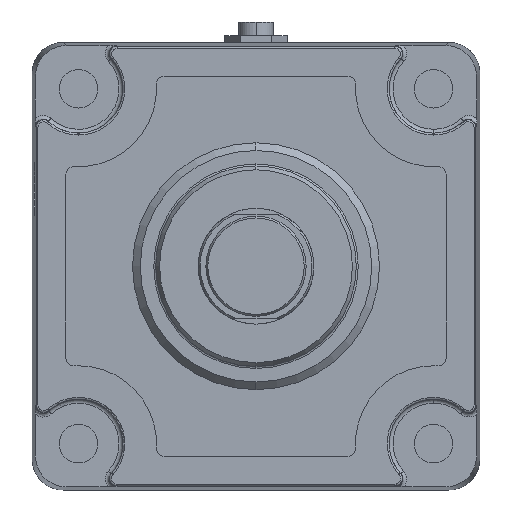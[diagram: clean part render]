
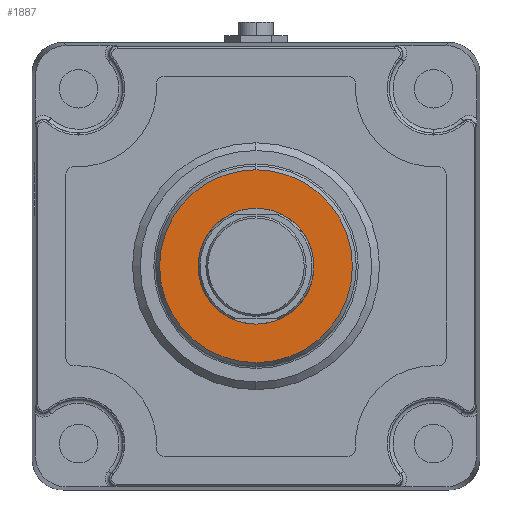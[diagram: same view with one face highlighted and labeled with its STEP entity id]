
A CAD part, left-side view. The second image highlights one B-rep face of the part: STEP entity #1887.
In plain terms, the highlighted planar face has unit normal (-1, 0, 0).
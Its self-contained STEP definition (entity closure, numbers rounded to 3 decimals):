
#595 = DIRECTION ( 'NONE',  ( -1., 0., 0. ) ) ;
#713 = EDGE_CURVE ( 'NONE', #10847, #6026, #5365, .T. ) ;
#957 = CARTESIAN_POINT ( 'NONE',  ( -79., 0., 0. ) ) ;
#1295 = EDGE_LOOP ( 'NONE', ( #6868, #6018 ) ) ;
#1624 = DIRECTION ( 'NONE',  ( -1., 0., 0. ) ) ;
#1870 = VERTEX_POINT ( 'NONE', #2126 ) ;
#1887 = ADVANCED_FACE ( 'NONE', ( #6658, #9474 ), #8594, .T. ) ;
#1954 = CARTESIAN_POINT ( 'NONE',  ( -79., 0., -25. ) ) ;
#2126 = CARTESIAN_POINT ( 'NONE',  ( -79., 0., -15. ) ) ;
#2426 = ORIENTED_EDGE ( 'NONE', *, *, #7792, .T. ) ;
#2427 = CARTESIAN_POINT ( 'NONE',  ( -79., 0., 0. ) ) ;
#3192 = AXIS2_PLACEMENT_3D ( 'NONE', #2427, #8034, #5599 ) ;
#3346 = AXIS2_PLACEMENT_3D ( 'NONE', #9741, #5179, #6752 ) ;
#3561 = CIRCLE ( 'NONE', #3346, 15. ) ;
#3736 = CARTESIAN_POINT ( 'NONE',  ( -79., 0., 25. ) ) ;
#4347 = CARTESIAN_POINT ( 'NONE',  ( -79., 0., 0. ) ) ;
#4600 = AXIS2_PLACEMENT_3D ( 'NONE', #957, #595, #9157 ) ;
#4738 = DIRECTION ( 'NONE',  ( 0., 0., 1. ) ) ;
#5145 = EDGE_CURVE ( 'NONE', #5212, #1870, #3561, .T. ) ;
#5179 = DIRECTION ( 'NONE',  ( 1., 0., 0. ) ) ;
#5212 = VERTEX_POINT ( 'NONE', #9767 ) ;
#5365 = CIRCLE ( 'NONE', #5716, 25. ) ;
#5599 = DIRECTION ( 'NONE',  ( 0., 0., -1. ) ) ;
#5716 = AXIS2_PLACEMENT_3D ( 'NONE', #4347, #5956, #7145 ) ;
#5801 = CARTESIAN_POINT ( 'NONE',  ( -79., 26., 0. ) ) ;
#5854 = ORIENTED_EDGE ( 'NONE', *, *, #713, .T. ) ;
#5956 = DIRECTION ( 'NONE',  ( -1., 0., 0. ) ) ;
#6018 = ORIENTED_EDGE ( 'NONE', *, *, #5145, .T. ) ;
#6026 = VERTEX_POINT ( 'NONE', #3736 ) ;
#6658 = FACE_OUTER_BOUND ( 'NONE', #8102, .T. ) ;
#6752 = DIRECTION ( 'NONE',  ( 0., 0., -1. ) ) ;
#6868 = ORIENTED_EDGE ( 'NONE', *, *, #10785, .T. ) ;
#7145 = DIRECTION ( 'NONE',  ( 0., 0., 1. ) ) ;
#7792 = EDGE_CURVE ( 'NONE', #6026, #10847, #7894, .T. ) ;
#7894 = CIRCLE ( 'NONE', #4600, 25. ) ;
#8034 = DIRECTION ( 'NONE',  ( 1., 0., 0. ) ) ;
#8102 = EDGE_LOOP ( 'NONE', ( #5854, #2426 ) ) ;
#8558 = AXIS2_PLACEMENT_3D ( 'NONE', #5801, #1624, #4738 ) ;
#8594 = PLANE ( 'NONE',  #8558 ) ;
#9157 = DIRECTION ( 'NONE',  ( 0., 0., 1. ) ) ;
#9474 = FACE_BOUND ( 'NONE', #1295, .T. ) ;
#9741 = CARTESIAN_POINT ( 'NONE',  ( -79., 0., 0. ) ) ;
#9767 = CARTESIAN_POINT ( 'NONE',  ( -79., 0., 15. ) ) ;
#10347 = CIRCLE ( 'NONE', #3192, 15. ) ;
#10785 = EDGE_CURVE ( 'NONE', #1870, #5212, #10347, .T. ) ;
#10847 = VERTEX_POINT ( 'NONE', #1954 ) ;
